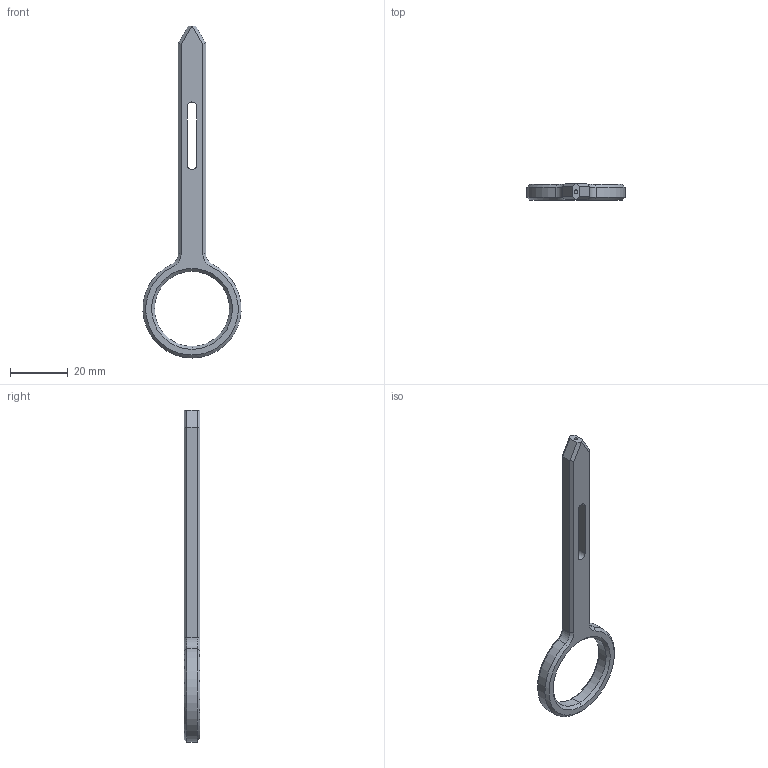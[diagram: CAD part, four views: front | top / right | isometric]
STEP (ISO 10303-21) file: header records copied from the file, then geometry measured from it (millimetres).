
FILE_DESCRIPTION (( 'STEP AP214' ), '1' );
FILE_NAME ('Center 1.5mm Rev-1.STEP', '2025-11-23T05:05:26', ( 'Admin' ), ( '' ), 'SwSTEP 2.0', 'SolidWorks 2023', '' );
FILE_SCHEMA (( 'AUTOMOTIVE_DESIGN' ));
Length unit declared in the file: millimetre
Products named in the file (1): Center 1.5mm Rev-1
Bounding box: 33.97 x 5.5 x 115 mm (x, y, z)
Volume: 5437.4 mm3; surface area: 3921.2 mm2
Topology: 1 solids, 1 shells, 40 faces, 94 edges, 57 vertices
Faces by surface type: plane 18, cone 11, cylinder 11
Entity records: 1166 total; most frequent: DIRECTION 209, CARTESIAN_POINT 192, ORIENTED_EDGE 188, EDGE_CURVE 94, AXIS2_PLACEMENT_3D 74, VECTOR 61, LINE 61, VERTEX_POINT 57
